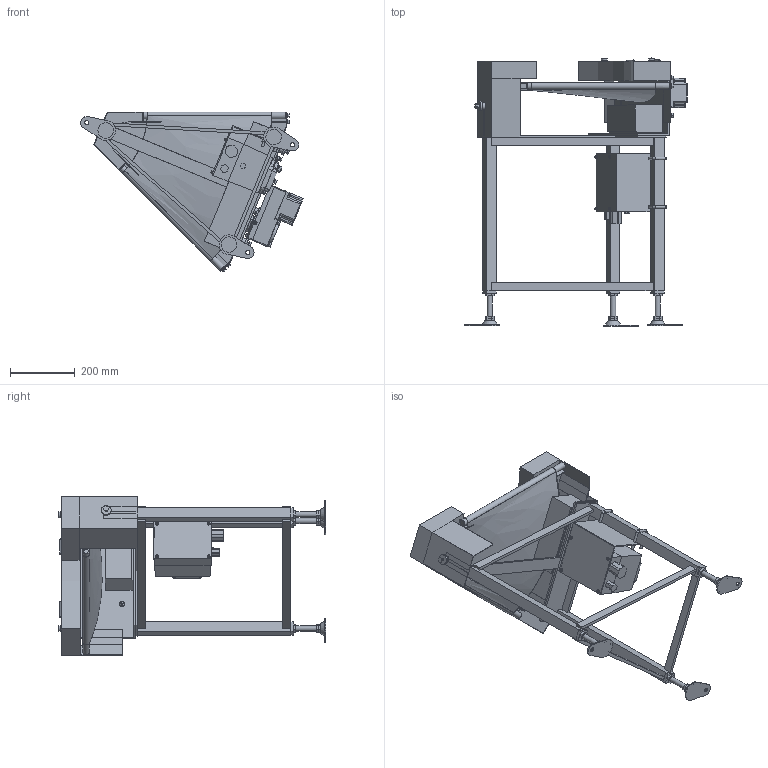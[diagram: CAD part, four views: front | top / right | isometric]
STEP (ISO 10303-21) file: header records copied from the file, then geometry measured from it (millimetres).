
FILE_DESCRIPTION (( 'STEP AP214' ), '1' );
FILE_NAME ('GFBC45-HS300-DC-L.STEP', '2023-04-20T02:16:38', ( '' ), ( '' ), 'SwSTEP 2.0', 'SolidWorks 2017', '' );
FILE_SCHEMA (( 'AUTOMOTIVE_DESIGN' ));
Length unit declared in the file: millimetre
Products named in the file (1): GFBC45-HS300-DC-L
Bounding box: 687.61 x 827.92 x 494.17 mm (x, y, z)
Volume: 15378880.5 mm3; surface area: 2640945 mm2
Topology: 65 solids, 66 shells, 1189 faces, 2719 edges, 1758 vertices
Faces by surface type: plane 858, cylinder 252, bspline 45, cone 20, torus 12, sphere 2
Full cylindrical faces by diameter (mm): 4 x4, 4.2 x2, 4.5 x1, 5 x4, 5.9 x4, 6 x13, 7 x1, 7.6 x4, 8 x23, 9 x12, 9.2 x1, 10 x7, 12 x2, 12.2 x2, 12.5 x7, 13 x9, 15 x4, 15.4 x1, 16 x9, 17 x2, 18 x2, 18.4 x1, 20 x7, 21 x1, 24 x1, 25 x1, 30 x6, 51 x1
Entity records: 52701 total; most frequent: CARTESIAN_POINT 12886, DIRECTION 5237, ORIENTED_EDGE 5014, EDGE_CURVE 2507, VECTOR 1777, LINE 1777, AXIS2_PLACEMENT_3D 1730, VERTEX_POINT 1715
